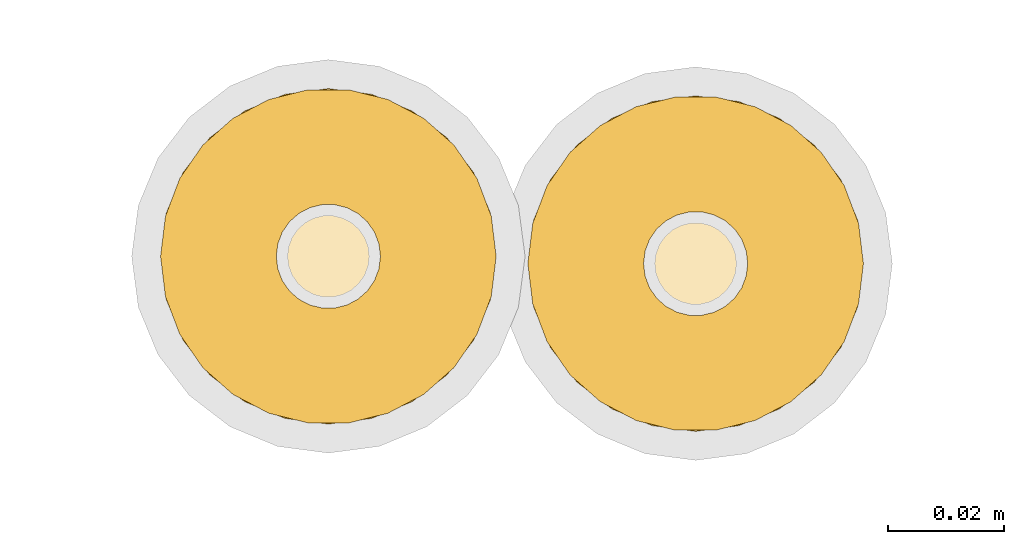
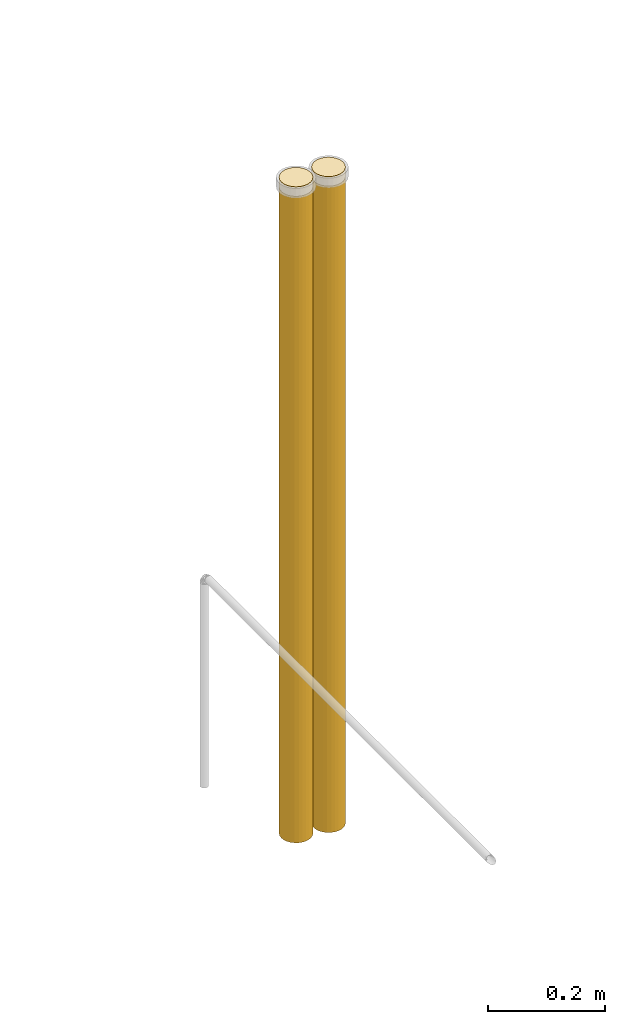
# One storey, part 1 of 18: 4 coverings.
"""IFC2X3 building model written with IfcOpenShell, lengths in millimetres."""

from ifc_helpers import new_model, entity, si_unit, converted_unit, derived_unit, direction, frame, origin_with_axes, origin_2d_with_axis, place, context, subcontext, project, spatial, hollow_circle, extrude, open_shell, surface_model, source, transform, mapped, element, save


model = new_model("IFC2X3")

# Units and contexts
model_context = context("Model", 3, precision=0.01, world=frame((0.0, 4.29681676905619e-09, 0.0)), true_north=direction((4.01073788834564e-13, 1.0)))
plan_context = context("Plan", 3, precision=0.01, world=frame((0.0, 4.29681676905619e-09, 0.0)), true_north=direction((4.01073788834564e-13, 1.0)))
body_context = subcontext(model_context, "Body", "Model", "MODEL_VIEW")
ifc_project = project(units=[converted_unit("PLANEANGLEUNIT", "DEGREE", entity("IfcPositiveLengthMeasure", 0.0174532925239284), si_unit("PLANEANGLEUNIT", "RADIAN"), dimensions=[0, 0, 0, 0, 0, 0, 0]), si_unit("AREAUNIT", "SQUARE_METRE"), si_unit("LENGTHUNIT", "METRE", prefix="MILLI"), si_unit("MASSUNIT", "GRAM", prefix="KILO"), si_unit("POWERUNIT", "WATT"), si_unit("PRESSUREUNIT", "PASCAL", prefix="KILO"), si_unit("FORCEUNIT", "NEWTON", prefix="KILO"), si_unit("ELECTRICVOLTAGEUNIT", "VOLT"), si_unit("ELECTRICCURRENTUNIT", "AMPERE"), si_unit("THERMODYNAMICTEMPERATUREUNIT", "DEGREE_CELSIUS"), si_unit("TIMEUNIT", "SECOND"), si_unit("VOLUMEUNIT", "CUBIC_METRE"), derived_unit("LINEARVELOCITYUNIT", [(si_unit("LENGTHUNIT", "METRE"), 1), (si_unit("TIMEUNIT", "SECOND"), -1)]), derived_unit("VOLUMETRICFLOWRATEUNIT", [(si_unit("VOLUMEUNIT", "CUBIC_METRE"), 1), (si_unit("TIMEUNIT", "SECOND"), -1)]), derived_unit("THERMALTRANSMITTANCEUNIT", [(si_unit("POWERUNIT", "WATT"), 1), (si_unit("THERMODYNAMICTEMPERATUREUNIT", "KELVIN"), -1), (si_unit("AREAUNIT", "SQUARE_METRE"), -1)]), derived_unit("SOUNDPRESSUREUNIT", [(si_unit("PRESSUREUNIT", "PASCAL"), 1)])], contexts=[model_context, plan_context])

# Site, building, storey
site_placement = place(None, frame((0.0, -4.29681676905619e-09, 0.0), z_axis=(0.0, 0.0, 1.0), x_axis=(1.0, 0.0, 0.0)))
site = spatial("IfcSite", under=ifc_project, at=site_placement, Name="ENGM", CompositionType="ELEMENT")
building_placement = place(site_placement, frame((0.0, 4.29681676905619e-09, 0.0), z_axis=(0.0, 0.0, 1.0), x_axis=(1.0, 0.0, 0.0)))
building = spatial("IfcBuilding", under=site, at=building_placement, Name="TI", CompositionType="ELEMENT")
storey_placement = place(building_placement, frame((0.0, 0.0, 204000.0), z_axis=(0.0, 0.0, 1.0), x_axis=(1.0, 0.0, 0.0)))
storey = spatial("IfcBuildingStorey", under=building, at=storey_placement, Name="Nivå D", CompositionType="ELEMENT", Elevation=204000.0)

# Coverings
shared_shape_1 = source(origin_with_axes(), body_context, "Body", "SweptSolid", [
    extrude(hollow_circle(Radius=29.0, WallThickness=20.0, at=origin_2d_with_axis()), frame((0.0, 0.0, 0.0), z_axis=(1.0, 0.0, 0.0), x_axis=(0.0, 1.0, 0.0)), (0.0, 0.0, 1.0), 1350.0),
])
for number, where, z_axis, x_axis in (
    (1, (593233.48235, 574996.60269, 7026.0), (0.0, -1.0, 0.0), (0.0, 0.0, -1.0)),
    (2, (593170.00678, 574997.85556, 7026.0), (0.0, -1.0, 0.0), (0.0, 0.0, -1.0)),
):
    element("IfcCovering", number, at=place(storey_placement, frame(where, z_axis=z_axis, x_axis=x_axis)), inside=storey, Name="BI10T - Cellegummi 18-32 mm kalde rør", PredefinedType="INSULATION", context=body_context, shape_type="MappedRepresentation", body=[
        mapped(shared_shape_1, transform((0.0, 0.0, 0.0), scale=1.0)),
    ])
shared_shape_2 = source(origin_with_axes(), body_context, "Body", "SurfaceModel", [
    surface_model("IfcShellBasedSurfaceModel", [(0.0, 25.11474, -14.5), (0.0, 25.11474, 14.5), (0.0, 29.0, 0.0), (20.0, 14.5, -25.11474), (20.0, 0.0, -29.0), (20.0, 7.50575, -28.01185), (20.0, 25.11474, -14.5), (20.0, 20.5061, -20.5061), (20.0, 28.01185, -7.50575), (20.0, 29.0, 0.0), (20.0, -28.01185, 7.50575), (20.0, -14.5, -25.11474), (20.0, -7.50575, -28.01185), (20.0, -28.01185, -7.50575), (20.0, -20.5061, -20.5061), (20.0, -25.11474, -14.5), (20.0, 28.01185, 7.50575), (20.0, 0.0, 29.0), (20.0, 25.11474, 14.5), (20.0, 14.5, 25.11474), (20.0, 20.5061, 20.5061), (20.0, 7.50575, 28.01185), (20.0, -7.50575, 28.01185), (20.0, -20.5061, 20.5061), (20.0, -25.11474, 14.5), (20.0, -29.0, 0.0), (20.0, -14.5, 25.11474), (0.0, 0.0, 29.0), (0.0, 7.50575, 28.01185), (0.0, 14.5, 25.11474), (0.0, -20.5061, 20.5061), (0.0, 20.5061, 20.5061), (0.0, -7.50575, 28.01185), (0.0, -14.5, 25.11474), (0.0, -28.01185, 7.50575), (0.0, -25.11474, 14.5), (0.0, -28.01185, -7.50575), (0.0, -29.0, 0.0), (0.0, 28.01185, 7.50575), (0.0, 28.01185, -7.50575), (0.0, 14.5, -25.11474), (0.0, 20.5061, -20.5061), (0.0, 7.50575, -28.01185), (0.0, 0.0, -29.0), (0.0, -20.5061, -20.5061), (0.0, -25.11474, -14.5), (0.0, -14.5, -25.11474), (0.0, -7.50575, -28.01185)], [open_shell([[[0, 1, 2]], [[3, 4, 5]], [[6, 3, 7]], [[6, 8, 9]], [[4, 3, 6]], [[6, 10, 4]], [[4, 11, 12]], [[11, 4, 13]], [[14, 13, 15]], [[13, 14, 11]], [[13, 4, 10]], [[6, 9, 16]], [[17, 16, 18]], [[19, 18, 20]], [[19, 21, 17]], [[19, 17, 18]], [[16, 17, 22]], [[10, 23, 24]], [[25, 13, 10]], [[23, 22, 26]], [[10, 6, 23]], [[23, 6, 22]], [[16, 22, 6]], [[27, 28, 29]], [[30, 27, 29]], [[30, 29, 1]], [[1, 29, 31]], [[1, 0, 30]], [[32, 30, 33]], [[32, 27, 30]], [[30, 34, 35]], [[30, 0, 34]], [[34, 36, 37]], [[2, 1, 38]], [[2, 39, 0]], [[34, 0, 36]], [[0, 40, 36]], [[40, 0, 41]], [[42, 43, 40]], [[36, 44, 45]], [[44, 36, 46]], [[46, 43, 47]], [[43, 46, 36]], [[36, 40, 43]], [[16, 2, 38]], [[18, 38, 1]], [[9, 2, 16]], [[18, 16, 38]], [[20, 18, 1]], [[1, 31, 20]], [[31, 29, 19]], [[19, 28, 21]], [[28, 19, 29]], [[17, 21, 28]], [[28, 27, 17]], [[31, 19, 20]], [[22, 27, 32]], [[26, 32, 33]], [[17, 27, 22]], [[26, 22, 32]], [[23, 26, 33]], [[33, 30, 23]], [[24, 30, 35]], [[10, 35, 34]], [[24, 35, 10]], [[25, 10, 34]], [[37, 25, 34]], [[30, 24, 23]], [[13, 37, 36]], [[15, 36, 45]], [[25, 37, 13]], [[15, 13, 36]], [[14, 15, 45]], [[45, 44, 14]], [[11, 44, 46]], [[12, 46, 47]], [[11, 46, 12]], [[4, 12, 47]], [[43, 4, 47]], [[44, 11, 14]], [[5, 43, 42]], [[3, 42, 40]], [[4, 43, 5]], [[3, 5, 42]], [[7, 3, 40]], [[40, 41, 7]], [[6, 41, 0]], [[8, 0, 39]], [[6, 0, 8]], [[9, 8, 39]], [[2, 9, 39]], [[41, 6, 7]]])]),
])
for number, where, z_axis, x_axis in (
    (3, (593233.48235, 574996.60269, 7046.0), (0.0, -1.0, 0.0), (0.0, 0.0, -1.0)),
    (4, (593170.00678, 574997.85556, 7046.0), (0.0, -1.0, 0.0), (0.0, 0.0, -1.0)),
):
    element("IfcCovering", number, at=place(storey_placement, frame(where, z_axis=z_axis, x_axis=x_axis)), inside=storey, Name="BI10T - Cellegummi 18-32 mm kalde rør", PredefinedType="INSULATION", context=body_context, shape_type="MappedRepresentation", body=[
        mapped(shared_shape_2, transform((0.0, 0.0, 0.0), scale=1.0)),
    ])

save(model, "model.ifc")
